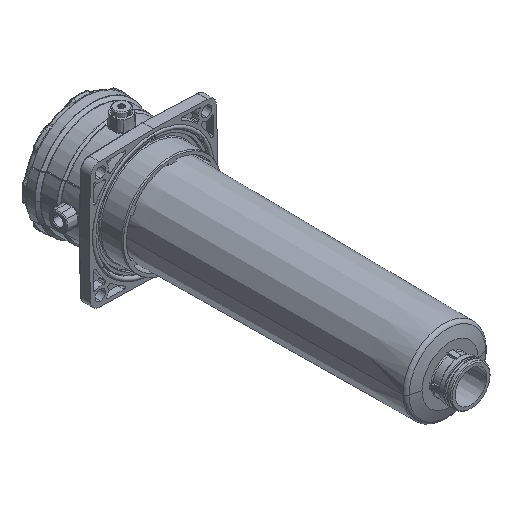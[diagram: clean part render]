
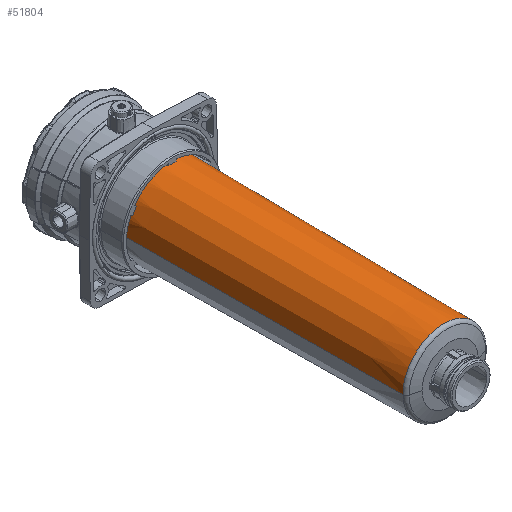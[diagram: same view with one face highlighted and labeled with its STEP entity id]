
A CAD part, isometric view. The second image highlights one B-rep face of the part: STEP entity #51804.
In plain terms, the highlighted conical face has half-angle 0.5 degrees and reference radius 46.409 mm.
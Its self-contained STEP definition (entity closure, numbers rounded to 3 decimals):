
#13026=CARTESIAN_POINT('',(0.,-7.3,
0.));
#13027=DIRECTION('',(0.,1.,0.));
#13028=DIRECTION('',(-1.,0.,0.));
#13029=AXIS2_PLACEMENT_3D('',#13026,#13027,#13028);
#13971=DIRECTION('',(0.009,1.,0.));
#13972=VECTOR('',#13971,323.302);
#13973=CARTESIAN_POINT('',(44.998,-330.59,
0.));
#13974=LINE('',#13973,#13972);
#13978=DIRECTION('',(-0.009,1.,0.));
#13979=VECTOR('',#13978,323.302);
#13980=CARTESIAN_POINT('',(-44.998,-330.59,
0.002));
#13981=LINE('',#13980,#13979);
#14001=CARTESIAN_POINT('',(0.,-330.59,
0.));
#14002=DIRECTION('',(0.,1.,0.));
#14003=DIRECTION('',(-1.,0.,0.));
#14004=AXIS2_PLACEMENT_3D('',#14001,#14002,#14003);
#35143=CARTESIAN_POINT('',(44.998,-330.59,
0.));
#35145=VERTEX_POINT('',#35143);
#35147=CARTESIAN_POINT('',(-44.998,-330.59,
0.006));
#35149=VERTEX_POINT('',#35147);
#35299=CARTESIAN_POINT('',(47.819,-7.3,
0.));
#35300=CARTESIAN_POINT('',(-47.819,-7.3,0.));
#35301=VERTEX_POINT('',#35299);
#35302=VERTEX_POINT('',#35300);
#51792=CARTESIAN_POINT('',(0.,-168.945,
0.));
#51793=DIRECTION('',(0.,1.,0.));
#51794=DIRECTION('',(1.,0.,0.));
#51795=AXIS2_PLACEMENT_3D('',#51792,#51793,#51794);
#51796=CONICAL_SURFACE('',#51795,46.409,0.5);
#51797=ORIENTED_EDGE('',*,*,#49082,.T.);
#51798=ORIENTED_EDGE('',*,*,#51787,.F.);
#51800=ORIENTED_EDGE('',*,*,#51799,.F.);
#51801=ORIENTED_EDGE('',*,*,#51783,.T.);
#51802=EDGE_LOOP('',(#51797,#51798,#51800,#51801));
#51803=FACE_OUTER_BOUND('',#51802,.F.);
#13030=CIRCLE('',#13029,47.819);
#14005=CIRCLE('',#14004,44.998);
#49082=EDGE_CURVE('',#35302,#35301,#13030,.T.);
#51783=EDGE_CURVE('',#35149,#35302,#13981,.T.);
#51787=EDGE_CURVE('',#35145,#35301,#13974,.T.);
#51799=EDGE_CURVE('',#35149,#35145,#14005,.T.);
#51804=ADVANCED_FACE('',(#51803),#51796,.T.);
